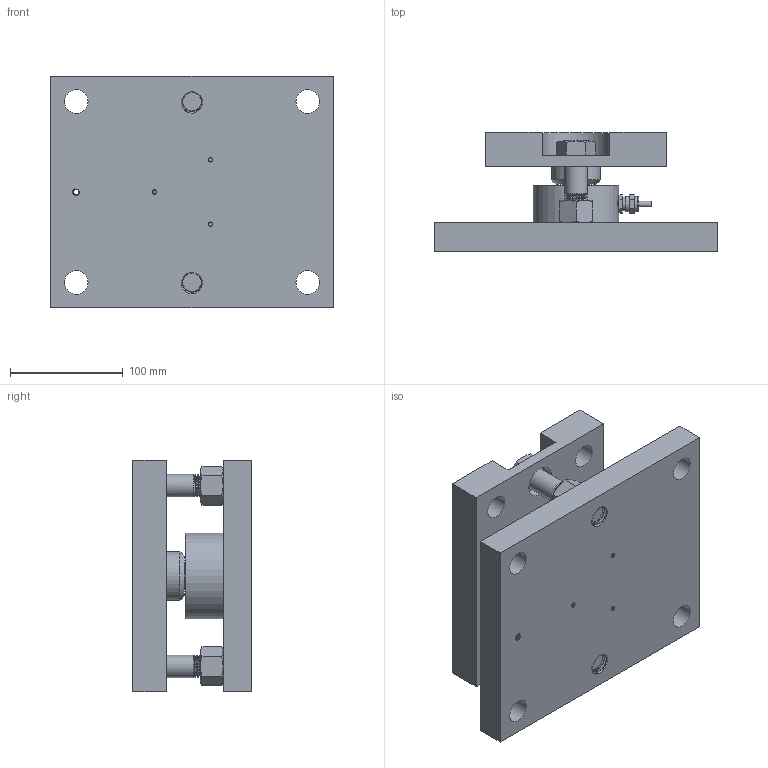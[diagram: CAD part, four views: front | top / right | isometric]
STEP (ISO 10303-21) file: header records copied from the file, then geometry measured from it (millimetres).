
FILE_DESCRIPTION(/* description */ (''),/* implementation_level */ '2;1');
FILE_NAME(/* name */ 'C:/Users/fardi/Dropbox/Work/Anyload/Load Cell Models/Product Catalog 3D/Weight Modules/276/276EHM1/276EHM1-25t v6.step',/* time_stamp */ '2020-05-01T11:17:07-07:00',/* author */ (''),/* organization */ (''),/* preprocessor_version */ 'ST-DEVELOPER v18.1',/* originating_system */ 'Autodesk Translation Framework v9.2.0.1227',/* authorisation */ '');
FILE_SCHEMA (('AUTOMOTIVE_DESIGN { 1 0 10303 214 3 1 1 }'));
Products named in the file (7): 276EHM1-25t; Base; 276EH-25t; Top; Adapter; 91310A956; 90725A740
Assembly tree (8 placements, depth 2):
  276EHM1-25t
    Base
    276EH-25t
    Top
    Adapter
    91310A956  x2
    90725A740  x2
Bounding box: 250 x 105 x 205 mm (x, y, z)
Volume: 2307685.2 mm3; surface area: 286344.9 mm2
Topology: 8 solids, 8 shells, 759 faces, 2016 edges, 1303 vertices
Faces by surface type: cylinder 517, plane 116, bspline 71, cone 53, torus 2
Full cylindrical faces by diameter (mm): 3.332 x129, 4.109 x126, 4.8 x3, 5.035 x30, 5.1 x1, 6.147 x29, 7 x3, 12 x1, 13.5 x2, 13.6 x1, 16.752 x46, 17.519 x18, 18 x1, 20 x50, 20.293 x20, 20.3 x1, 21 x8, 24 x1, 28 x2, 43 x1, 49 x1, 54 x1, 57.3 x1, 75.9 x1
Entity records: 47130 total; most frequent: CARTESIAN_POINT 33325, ORIENTED_EDGE 3282, DIRECTION 2122, EDGE_CURVE 1641, VERTEX_POINT 1061, B_SPLINE_CURVE_WITH_KNOTS 778, AXIS2_PLACEMENT_3D 759, EDGE_LOOP 680
